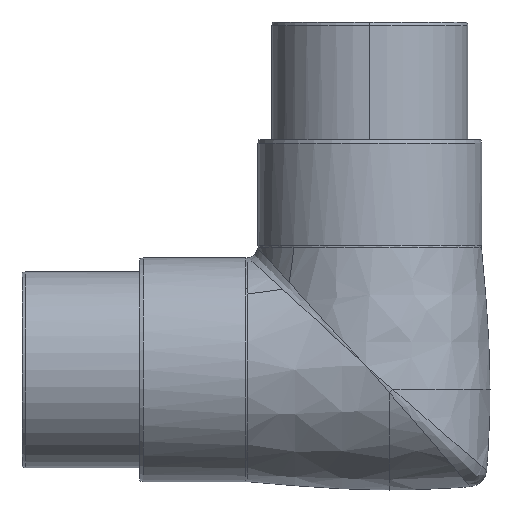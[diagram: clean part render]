
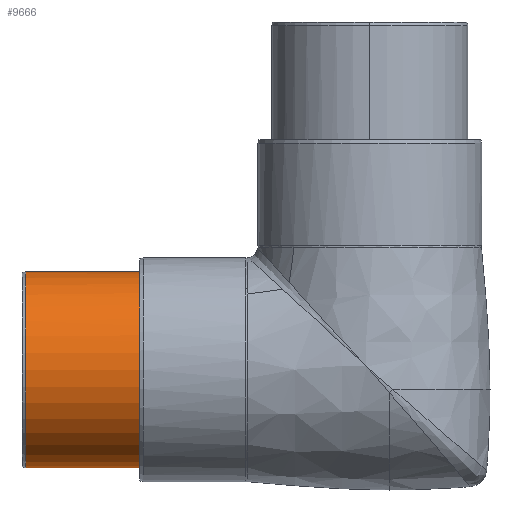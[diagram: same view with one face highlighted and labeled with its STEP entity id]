
A CAD part, left-side view. The second image highlights one B-rep face of the part: STEP entity #9666.
In plain terms, the highlighted cylindrical face has radius 55 mm (diameter 110 mm), a partial arc.
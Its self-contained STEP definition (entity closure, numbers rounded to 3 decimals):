
#56 = LINE ( 'NONE', #63, #2808 ) ;
#63 = CARTESIAN_POINT ( 'NONE',  ( -39.793, 206.206, 68.385 ) ) ;
#64 = DIRECTION ( 'NONE',  ( 0., -1., 0. ) ) ;
#65 = LINE ( 'NONE', #66, #2813 ) ;
#66 = CARTESIAN_POINT ( 'NONE',  ( -39.793, 206.206, -41.615 ) ) ;
#74 = DIRECTION ( 'NONE',  ( 0., -1., 0. ) ) ;
#137 = CARTESIAN_POINT ( 'NONE',  ( -39.793, 204.206, 13.385 ) ) ;
#138 = DIRECTION ( 'NONE',  ( 0., -1., 0. ) ) ;
#139 = DIRECTION ( 'NONE',  ( 0., 0., 1. ) ) ;
#140 = CARTESIAN_POINT ( 'NONE',  ( -94.793, 11.206, 13.385 ) ) ;
#141 = CARTESIAN_POINT ( 'NONE',  ( -39.793, 11.206, 13.385 ) ) ;
#142 = DIRECTION ( 'NONE',  ( 0., 1., 0. ) ) ;
#143 = DIRECTION ( 'NONE',  ( 0., 0., 1. ) ) ;
#144 = CARTESIAN_POINT ( 'NONE',  ( -94.793, 45.181, 45.603 ) ) ;
#145 = CARTESIAN_POINT ( 'NONE',  ( -72.011, 69.206, 68.385 ) ) ;
#146 = CARTESIAN_POINT ( 'NONE',  ( -39.793, 69.206, 68.385 ) ) ;
#2514 = EDGE_LOOP ( 'NONE', ( #10625, #10626, #10627, #10628, #10629 ) ) ;
#2692 = EDGE_CURVE ( 'NONE', #7043, #7048, #56, .T. ) ;
#2695 = EDGE_CURVE ( 'NONE', #7042, #7051, #65, .T. ) ;
#2716 = EDGE_CURVE ( 'NONE', #7043, #7042, #10736, .T. ) ;
#2717 = EDGE_CURVE ( 'NONE', #7051, #7045, #10738, .T. ) ;
#2718 = EDGE_CURVE ( 'NONE', #7045, #7048, #9570, .T. ) ;
#2808 = VECTOR ( 'NONE', #64, 1000. ) ;
#2813 = VECTOR ( 'NONE', #74, 1000. ) ;
#4072 = AXIS2_PLACEMENT_3D ( 'NONE', #12348, #12344, #12351 ) ;
#7042 = VERTEX_POINT ( 'NONE', #11214 ) ;
#7043 = VERTEX_POINT ( 'NONE', #11215 ) ;
#7045 = VERTEX_POINT ( 'NONE', #11217 ) ;
#7048 = VERTEX_POINT ( 'NONE', #11220 ) ;
#7051 = VERTEX_POINT ( 'NONE', #11223 ) ;
#9570 =( BOUNDED_CURVE ( )  B_SPLINE_CURVE ( 3, ( #140, #144, #145, #146 ),
 .UNSPECIFIED., .F., .T. ) 
 B_SPLINE_CURVE_WITH_KNOTS ( ( 4, 4 ),
 ( 1.571, 3.142 ),
 .UNSPECIFIED. ) 
 CURVE ( )  GEOMETRIC_REPRESENTATION_ITEM ( )  RATIONAL_B_SPLINE_CURVE ( ( 1., 0.805, 0.805, 1. ) ) 
 REPRESENTATION_ITEM ( '' )  );
#9666 = ADVANCED_FACE ( 'NONE', ( #12347 ), #12350, .T. ) ;
#10625 = ORIENTED_EDGE ( 'NONE', *, *, #2692, .F. ) ;
#10626 = ORIENTED_EDGE ( 'NONE', *, *, #2716, .T. ) ;
#10627 = ORIENTED_EDGE ( 'NONE', *, *, #2695, .T. ) ;
#10628 = ORIENTED_EDGE ( 'NONE', *, *, #2717, .T. ) ;
#10629 = ORIENTED_EDGE ( 'NONE', *, *, #2718, .T. ) ;
#10736 = CIRCLE ( 'NONE', #10739, 55. ) ;
#10738 = CIRCLE ( 'NONE', #10740, 55. ) ;
#10739 = AXIS2_PLACEMENT_3D ( 'NONE', #137, #138, #139 ) ;
#10740 = AXIS2_PLACEMENT_3D ( 'NONE', #141, #142, #143 ) ;
#11214 = CARTESIAN_POINT ( 'NONE',  ( -39.793, 204.206, -41.615 ) ) ;
#11215 = CARTESIAN_POINT ( 'NONE',  ( -39.793, 204.206, 68.385 ) ) ;
#11217 = CARTESIAN_POINT ( 'NONE',  ( -94.793, 11.206, 13.385 ) ) ;
#11220 = CARTESIAN_POINT ( 'NONE',  ( -39.793, 69.206, 68.385 ) ) ;
#11223 = CARTESIAN_POINT ( 'NONE',  ( -39.793, 11.206, -41.615 ) ) ;
#12344 = DIRECTION ( 'NONE',  ( 0., -1., 0. ) ) ;
#12347 = FACE_OUTER_BOUND ( 'NONE', #2514, .T. ) ;
#12348 = CARTESIAN_POINT ( 'NONE',  ( -39.793, 206.206, 13.385 ) ) ;
#12350 = CYLINDRICAL_SURFACE ( 'NONE', #4072, 55. ) ;
#12351 = DIRECTION ( 'NONE',  ( 0., 0., -1. ) ) ;
